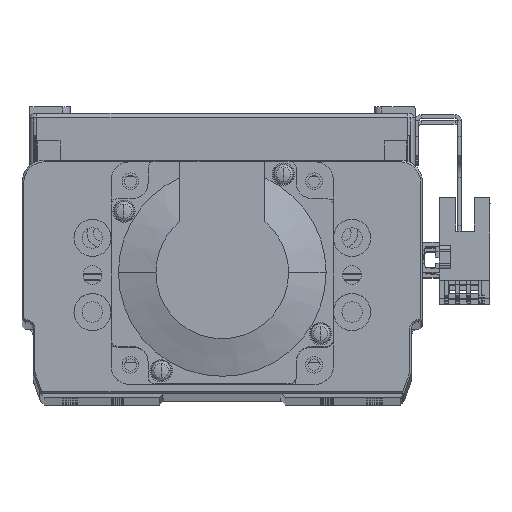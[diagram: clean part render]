
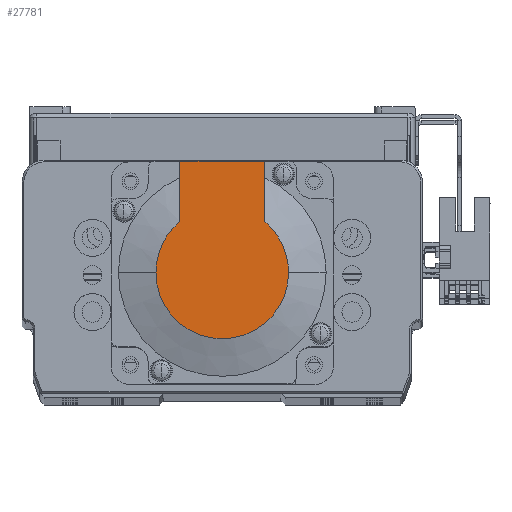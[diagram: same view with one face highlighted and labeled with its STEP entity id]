
A CAD part, top view. The second image highlights one B-rep face of the part: STEP entity #27781.
In plain terms, the highlighted planar face has unit normal (0, 0, 1) as drawn and (-1, 0, 0) by its records, which use the part's own axes.
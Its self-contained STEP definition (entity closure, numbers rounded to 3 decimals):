
#843 = CARTESIAN_POINT ( 'NONE',  ( -99., -8.941, -11.45 ) ) ;
#2054 = DIRECTION ( 'NONE',  ( -1., 0., 0. ) ) ;
#4512 = DIRECTION ( 'NONE',  ( 0., -1., 0. ) ) ;
#4592 = DIRECTION ( 'NONE',  ( 0., -1., 0. ) ) ;
#6107 = VERTEX_POINT ( 'NONE', #28723 ) ;
#7328 = AXIS2_PLACEMENT_3D ( 'NONE', #14464, #47975, #19798 ) ;
#8737 = CARTESIAN_POINT ( 'NONE',  ( -99., 30., 11.45 ) ) ;
#10896 = VECTOR ( 'NONE', #54453, 1000. ) ;
#12436 = CARTESIAN_POINT ( 'NONE',  ( -99., 0., 0. ) ) ;
#12556 = EDGE_CURVE ( 'NONE', #34763, #13794, #59979, .T. ) ;
#13234 = DIRECTION ( 'NONE',  ( -1., 0., 0. ) ) ;
#13541 = CIRCLE ( 'NONE', #40291, 17.881 ) ;
#13794 = VERTEX_POINT ( 'NONE', #17883 ) ;
#14464 = CARTESIAN_POINT ( 'NONE',  ( -99., 0., 0. ) ) ;
#17004 = LINE ( 'NONE', #843, #25131 ) ;
#17883 = CARTESIAN_POINT ( 'NONE',  ( -99., 13.735, 11.45 ) ) ;
#18851 = AXIS2_PLACEMENT_3D ( 'NONE', #32571, #41220, #46552 ) ;
#19798 = DIRECTION ( 'NONE',  ( 0., 0., -1. ) ) ;
#21074 = EDGE_CURVE ( 'NONE', #38066, #34763, #40321, .T. ) ;
#24041 = CARTESIAN_POINT ( 'NONE',  ( -99., 30., -11.45 ) ) ;
#24054 = EDGE_CURVE ( 'NONE', #34235, #56168, #33365, .T. ) ;
#24863 = ORIENTED_EDGE ( 'NONE', *, *, #24054, .T. ) ;
#25131 = VECTOR ( 'NONE', #4512, 1000. ) ;
#26812 = EDGE_CURVE ( 'NONE', #6107, #13794, #35216, .T. ) ;
#27003 = DIRECTION ( 'NONE',  ( 0., 0., -1. ) ) ;
#27016 = FACE_OUTER_BOUND ( 'NONE', #59288, .T. ) ;
#27044 = CARTESIAN_POINT ( 'NONE',  ( -99., 30., 25. ) ) ;
#27781 = ADVANCED_FACE ( 'NONE', ( #27016 ), #58210, .T. ) ;
#27952 = AXIS2_PLACEMENT_3D ( 'NONE', #30199, #2054, #43571 ) ;
#28314 = VECTOR ( 'NONE', #4592, 1000. ) ;
#28723 = CARTESIAN_POINT ( 'NONE',  ( -99., 0., 17.881 ) ) ;
#30199 = CARTESIAN_POINT ( 'NONE',  ( -99., -8.941, 0. ) ) ;
#32571 = CARTESIAN_POINT ( 'NONE',  ( -99., 0., 0. ) ) ;
#33365 = CIRCLE ( 'NONE', #7328, 17.881 ) ;
#34235 = VERTEX_POINT ( 'NONE', #52513 ) ;
#34500 = ORIENTED_EDGE ( 'NONE', *, *, #50096, .T. ) ;
#34763 = VERTEX_POINT ( 'NONE', #8737 ) ;
#35216 = CIRCLE ( 'NONE', #18851, 17.881 ) ;
#35533 = ORIENTED_EDGE ( 'NONE', *, *, #21074, .F. ) ;
#38066 = VERTEX_POINT ( 'NONE', #24041 ) ;
#39334 = ORIENTED_EDGE ( 'NONE', *, *, #26812, .T. ) ;
#40291 = AXIS2_PLACEMENT_3D ( 'NONE', #12436, #13234, #27003 ) ;
#40321 = LINE ( 'NONE', #27044, #10896 ) ;
#41220 = DIRECTION ( 'NONE',  ( -1., 0., 0. ) ) ;
#41756 = EDGE_CURVE ( 'NONE', #56168, #6107, #13541, .T. ) ;
#43571 = DIRECTION ( 'NONE',  ( 0., 0., 1. ) ) ;
#46552 = DIRECTION ( 'NONE',  ( 0., 0., -1. ) ) ;
#47975 = DIRECTION ( 'NONE',  ( -1., 0., 0. ) ) ;
#48378 = ORIENTED_EDGE ( 'NONE', *, *, #12556, .F. ) ;
#50096 = EDGE_CURVE ( 'NONE', #38066, #34235, #17004, .T. ) ;
#50767 = ORIENTED_EDGE ( 'NONE', *, *, #41756, .T. ) ;
#51653 = CARTESIAN_POINT ( 'NONE',  ( -99., 0., -17.881 ) ) ;
#52513 = CARTESIAN_POINT ( 'NONE',  ( -99., 13.735, -11.45 ) ) ;
#54453 = DIRECTION ( 'NONE',  ( 0., 0., 1. ) ) ;
#56168 = VERTEX_POINT ( 'NONE', #51653 ) ;
#58210 = PLANE ( 'NONE',  #27952 ) ;
#59288 = EDGE_LOOP ( 'NONE', ( #34500, #24863, #50767, #39334, #48378, #35533 ) ) ;
#59979 = LINE ( 'NONE', #60799, #28314 ) ;
#60799 = CARTESIAN_POINT ( 'NONE',  ( -99., 0., 11.45 ) ) ;
